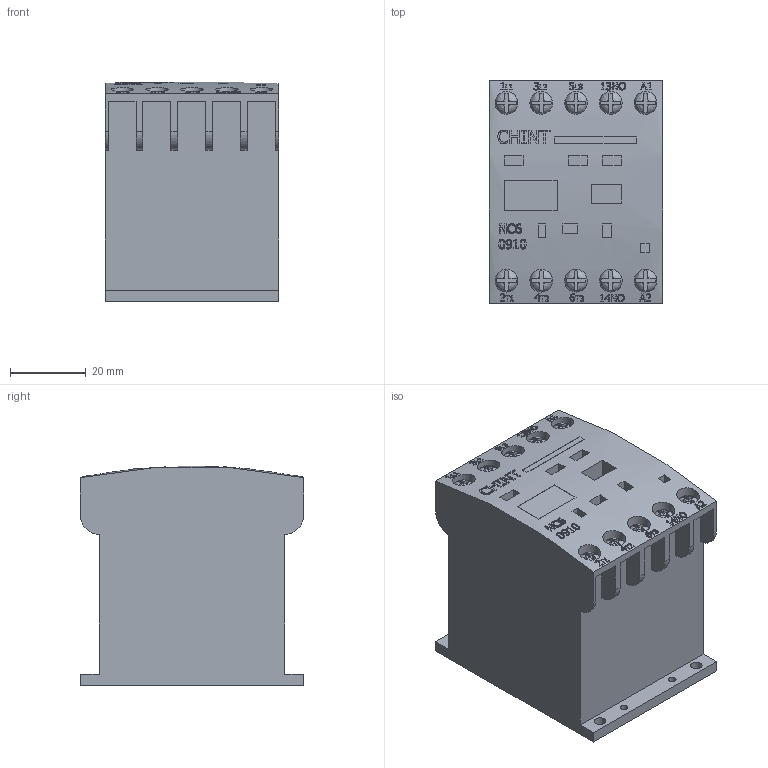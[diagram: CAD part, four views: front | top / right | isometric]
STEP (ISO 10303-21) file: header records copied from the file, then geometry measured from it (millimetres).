
FILE_DESCRIPTION(/* description */ (''),/* implementation_level */ '2;1');
FILE_NAME(/* name */ 'D:\CHINT2\NC6\NC6-0910.stp',/* time_stamp */ '2017-11-12T21:28:43+03:00',/* author */ ('RSagdiev'),/* organization */ (''),/* preprocessor_version */ 'ST-DEVELOPER v16.5',/* originating_system */ 'Autodesk Inventor 2017',/* authorisation */ '');
FILE_SCHEMA (('CONFIG_CONTROL_DESIGN','AUTOMOTIVE_DESIGN { 1 0 10303 214 3 1 1 }'));
Length unit declared in the file: millimetre
Products named in the file (1): NC6-0910
Bounding box: 46 x 59 x 58 mm (x, y, z)
Volume: 131630.4 mm3; surface area: 20516.8 mm2
Topology: 11 solids, 11 shells, 927 faces, 2546 edges, 1694 vertices
Faces by surface type: plane 551, bspline 291, cylinder 85
Full cylindrical faces by diameter (mm): 2 x4, 3 x4, 6 x10
Entity records: 35216 total; most frequent: CARTESIAN_POINT 13280, ORIENTED_EDGE 5036, DIRECTION 3654, EDGE_CURVE 2518, VERTEX_POINT 1684, LINE 1336, VECTOR 1336, AXIS2_PLACEMENT_3D 1159
